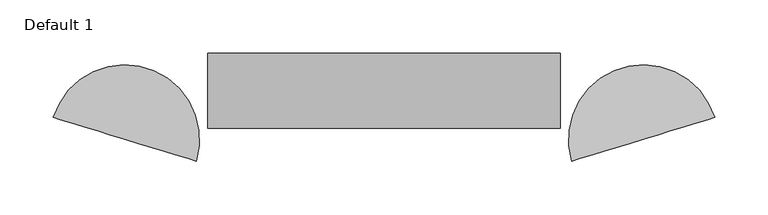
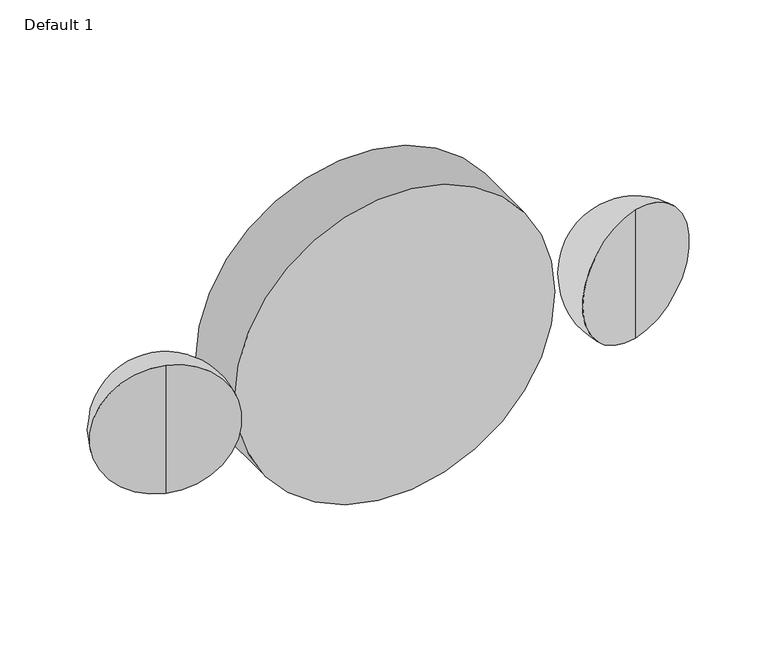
"""IFC4 building model written with IfcOpenShell, lengths in millimetres: proxy geometry, Emegency Light - Wall Mounted : Default 1."""

from ifc_helpers import new_model, si_unit, point, frame, frame_2d, origin, place, context, project, spatial, circle_curve, ellipse_curve, trimmed, segment, composite_curve, outline, extrude, source, transform, mapped, element, save
from ifc_brep_helpers import plane_surface, revolved_surface, advanced_brep


def default_1_ff680e1f(model_context):
    return source(origin(), model_context, "Body", "SolidModel", [
        advanced_brep(
        [(242.0100861, -80.3132879, 2367.0459372), (242.0100861, -80.3132879, 2227.3459372)],
        [
            (0, 1),
            (1, 0, circle_curve(frame((242.0100861, -80.3132879, 2297.1959372), z_axis=(0.29237170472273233, -0.9563047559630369, 0.0), x_axis=(0.0, 0.0, -1.0)), 69.85)),
            (0, 1, circle_curve(frame((242.0100861, -80.3132879, 2297.1959372), z_axis=(0.2923717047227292, -0.9563047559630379, 0.0), x_axis=(0.0, 0.0, -1.0)), 69.85)),
        ],
        [
            plane_surface(frame((242.0100861, -80.3132879, 2370.2209372), z_axis=(0.2923717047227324, -0.9563047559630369, 0.0), x_axis=(0.9563047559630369, 0.2923717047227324, 0.0))),
            plane_surface(frame((242.0100861, -80.3132879, 2370.2209372), z_axis=(0.2923717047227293, -0.9563047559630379, 0.0), x_axis=(-0.9563047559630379, -0.2923717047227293, 0.0))),
            revolved_surface(trimmed(ellipse_curve(frame((242.0100861, -80.3132879, 2297.1959372), z_axis=(-0.29237170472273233, 0.9563047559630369, 0.0), x_axis=(0.0, 0.0, -1.0)), 69.85, 69.85), [point((242.0100861, -80.3132879, 2367.0459372))], [point((242.0100861, -80.3132879, 2227.3459372))], True, "CARTESIAN"), (242.0100861, -80.3132879, 2370.2209372), (0.0, 0.0, -1.0)),
        ],
        [
            (0, [[1, 2]]),
            (1, [[3, -1]]),
            (2, [[-2, -3]]),
        ],
    ),
        advanced_brep(
        [(-242.9779673, -80.3132879, 2367.0459372), (-242.9779673, -80.3132879, 2227.3459372)],
        [
            (0, 1, circle_curve(frame((-242.9779673, -80.3132879, 2297.1959372), z_axis=(-0.29237170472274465, -0.9563047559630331, 0.0), x_axis=(0.0, 0.0, -1.0)), 69.85)),
            (1, 0),
            (1, 0, circle_curve(frame((-242.9779673, -80.3132879, 2297.1959372), z_axis=(-0.29237170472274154, -0.9563047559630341, 0.0), x_axis=(0.0, 0.0, -1.0)), 69.85)),
        ],
        [
            plane_surface(frame((-242.9779673, -80.3132879, 2370.2209372), z_axis=(-0.2923717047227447, -0.9563047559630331, 0.0), x_axis=(-0.9563047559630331, 0.2923717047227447, 0.0))),
            plane_surface(frame((-242.9779673, -80.3132879, 2370.2209372), z_axis=(-0.2923717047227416, -0.9563047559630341, 0.0), x_axis=(0.9563047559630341, -0.2923717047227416, 0.0))),
            revolved_surface(trimmed(ellipse_curve(frame((-242.9779673, -80.3132879, 2297.1959372), z_axis=(0.29237170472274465, 0.9563047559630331, 0.0), x_axis=(0.0, 0.0, -1.0)), 69.85, 69.85), [point((-242.9779673, -80.3132879, 2227.3459372))], [point((-242.9779673, -80.3132879, 2367.0459372))], True, "CARTESIAN"), (-242.9779673, -80.3132879, 2370.2209372), (0.0, 0.0, 1.0)),
        ],
        [
            (0, [[1, 2]]),
            (1, [[3, -2]]),
            (2, [[-1, -3]]),
        ],
    ),
        extrude(outline(composite_curve([segment(trimmed(circle_curve(frame_2d((2298.7, -0.4839406)), 165.1), [point((2298.7, 164.6160594))], [point((2298.7, -165.5839406))], False, "CARTESIAN"), True, "CONTINUOUS"), segment(trimmed(circle_curve(frame_2d((2298.7, -0.4839406)), 165.1), [point((2298.7, -165.5839406))], [point((2298.7, 164.6160594))], False, "CARTESIAN"), True, "CONTINUOUS")], self_intersect=False)), frame((0.0, -69.85, 0.0), z_axis=(0.0, 1.0, 0.0), x_axis=(0.0, 0.0, 1.0)), (0.0, 0.0, 1.0), 69.85),
    ])


if __name__ == "__main__":
    model = new_model("IFC4")
    model_context = context("Model", 3, world=origin())
    ifc_project = project(units=[si_unit("LENGTHUNIT", "METRE", prefix="MILLI")], contexts=[model_context])
    site = spatial("IfcSite", under=ifc_project)
    building = spatial("IfcBuilding", under=site)
    placement = place(None, origin())
    default_1_shape = default_1_ff680e1f(model_context)
    element("IfcBuildingElementProxy", 1, Name="Emegency Light - Wall Mounted : Default 1", ObjectType="Emegency Light - Wall Mounted : Default 1", at=placement, inside=building, context=model_context, shape_type="MappedRepresentation", body=[
        mapped(default_1_shape, transform((0.0, 0.0, 0.0), x_axis=(1.0, 0.0, 0.0), y_axis=(0.0, 1.0, 0.0), z_axis=(0.0, 0.0, 1.0))),
    ])
    save(model, "model.ifc")
